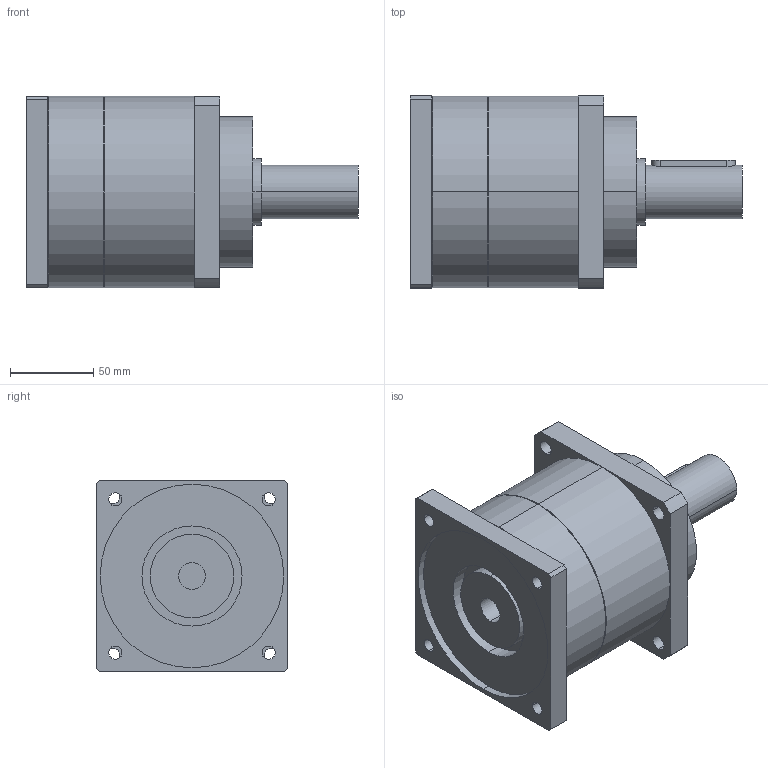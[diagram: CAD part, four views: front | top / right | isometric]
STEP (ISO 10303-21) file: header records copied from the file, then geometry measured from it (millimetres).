
FILE_DESCRIPTION(('CoCreate Modeling STEP Export'),'2;1');
FILE_NAME('GPT120_ig-3-4-5-7-10_32_B5A_16_P13.stp','2015-02-04T16:08:18',(''),(''),'CoCreate Modeling STEP processor for AP214 (Solid Model)','CoCreate Modeling 16.00C 25-Feb-2009 (C) Parametric Technology GmbH','');
FILE_SCHEMA(('AUTOMOTIVE_DESIGN { 1 0 10303 214 1 1 1 1 }'));
Length unit declared in the file: millimetre
Products named in the file (2): GPT120_ig-3-4-5-7-10_32_B5A_16_P13
Assembly tree (1 placements, depth 2):
  GPT120_ig-3-4-5-7-10_32_B5A_16_P13
    GPT120_ig-3-4-5-7-10_32_B5A_16_P13
Bounding box: 199 x 115 x 115 mm (x, y, z)
Volume: 1396967.7 mm3; surface area: 98150.7 mm2
Topology: 1 solids, 1 shells, 77 faces, 202 edges, 137 vertices
Faces by surface type: cylinder 46, plane 27, cone 4
Entity records: 2558 total; most frequent: CARTESIAN_POINT 757, ORIENTED_EDGE 404, DIRECTION 320, EDGE_CURVE 202, VERTEX_POINT 137, AXIS2_PLACEMENT_3D 118, EDGE_LOOP 103, VECTOR 84
